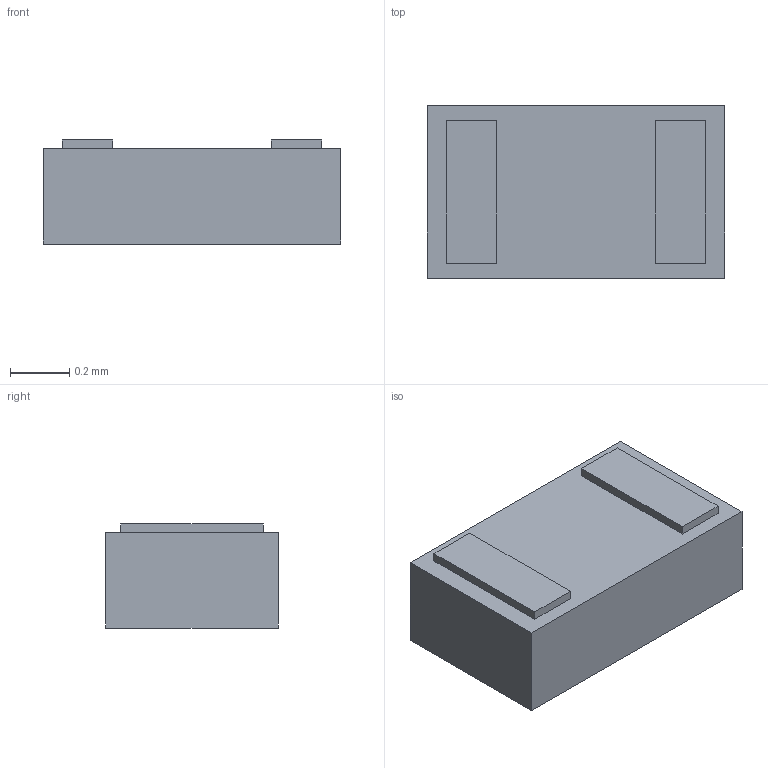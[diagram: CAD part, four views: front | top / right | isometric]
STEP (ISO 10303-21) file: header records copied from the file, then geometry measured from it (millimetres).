
FILE_DESCRIPTION((''),'2;1');
FILE_NAME('A9005868','2024-09-02T20:30:33',('gfichot'),(''),'CREO PARAMETRIC BY PTC INC, 2023072','CREO PARAMETRIC BY PTC INC, 2023072','');
FILE_SCHEMA(('CONFIG_CONTROL_DESIGN'));
Length unit declared in the file: millimetre
Products named in the file (1): A9005868
Bounding box: 1 x 0.58 x 0.35 mm (x, y, z)
Volume: 0.2 mm3; surface area: 2.2 mm2
Topology: 1 solids, 1 shells, 16 faces, 36 edges, 24 vertices
Faces by surface type: plane 16
Entity records: 478 total; most frequent: CARTESIAN_POINT 76, ORIENTED_EDGE 72, DIRECTION 68, VECTOR 36, LINE 36, EDGE_CURVE 36, VERTEX_POINT 24, EDGE_LOOP 18
